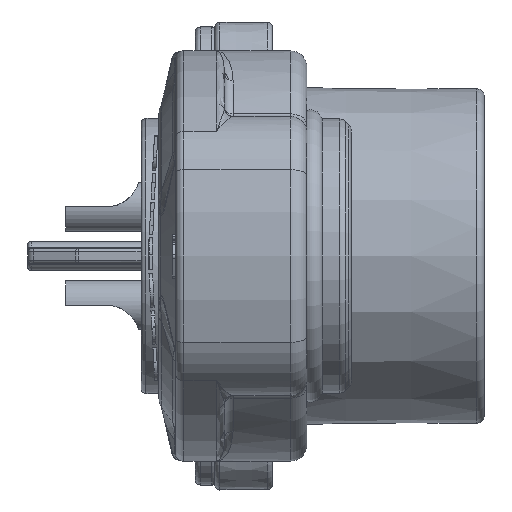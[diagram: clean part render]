
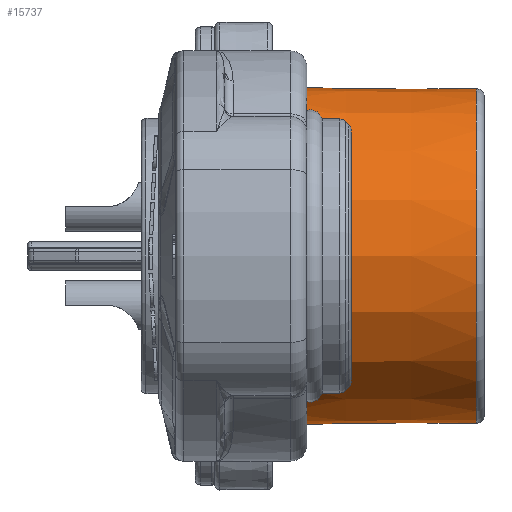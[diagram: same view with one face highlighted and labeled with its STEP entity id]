
A CAD part, front view. The second image highlights one B-rep face of the part: STEP entity #15737.
In plain terms, the highlighted conical face has half-angle 0.5 degrees and reference radius 10.2 mm.
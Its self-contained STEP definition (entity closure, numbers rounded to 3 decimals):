
#863 = VERTEX_POINT ( 'NONE', #16280 ) ;
#988 = DIRECTION ( 'NONE',  ( 0., 0., -1. ) ) ;
#2016 = CIRCLE ( 'NONE', #17693, 10.204 ) ;
#2128 = EDGE_LOOP ( 'NONE', ( #4218, #34619, #41093, #7070 ) ) ;
#2325 = EDGE_CURVE ( 'NONE', #863, #9062, #15677, .T. ) ;
#3129 = CARTESIAN_POINT ( 'NONE',  ( -8.135, 7.349, 7.175 ) ) ;
#3972 = CIRCLE ( 'NONE', #22438, 10.308 ) ;
#4218 = ORIENTED_EDGE ( 'NONE', *, *, #2325, .T. ) ;
#7070 = ORIENTED_EDGE ( 'NONE', *, *, #31493, .T. ) ;
#7623 = CONICAL_SURFACE ( 'NONE', #19943, 10.2, 0.009 ) ;
#7672 = CARTESIAN_POINT ( 'NONE',  ( -10.57, 7.36, -7.195 ) ) ;
#9062 = VERTEX_POINT ( 'NONE', #15787 ) ;
#9404 = DIRECTION ( 'NONE',  ( 1., 0., 0. ) ) ;
#9542 = CARTESIAN_POINT ( 'NONE',  ( -10.269, 7.358, 7.193 ) ) ;
#12674 = EDGE_CURVE ( 'NONE', #9062, #33868, #2016, .T. ) ;
#13581 = DIRECTION ( 'NONE',  ( -1., 0., 0. ) ) ;
#14080 = CARTESIAN_POINT ( 'NONE',  ( -12.404, 7.367, -7.21 ) ) ;
#15677 = B_SPLINE_CURVE_WITH_KNOTS ( 'NONE', 3,
 ( #14080, #7672, #39989, #27358, #24142, #23735, #27155 ),
 .UNSPECIFIED., .F., .F.,
 ( 4, 3, 4 ),
 ( 0., 0.006, 0.012 ),
 .UNSPECIFIED. ) ;
#15737 = ADVANCED_FACE ( 'NONE', ( #24273 ), #7623, .T. ) ;
#15787 = CARTESIAN_POINT ( 'NONE',  ( -0.496, 7.317, -7.113 ) ) ;
#16026 = CARTESIAN_POINT ( 'NONE',  ( -12.404, 0., 0. ) ) ;
#16280 = CARTESIAN_POINT ( 'NONE',  ( -12.404, 7.367, -7.21 ) ) ;
#17472 = CARTESIAN_POINT ( 'NONE',  ( -12.404, 7.367, 7.21 ) ) ;
#17693 = AXIS2_PLACEMENT_3D ( 'NONE', #39494, #13581, #988 ) ;
#19127 = EDGE_CURVE ( 'NONE', #33868, #35071, #41180, .T. ) ;
#19396 = CARTESIAN_POINT ( 'NONE',  ( -0.496, 7.317, 7.113 ) ) ;
#19943 = AXIS2_PLACEMENT_3D ( 'NONE', #20649, #37317, #33701 ) ;
#20649 = CARTESIAN_POINT ( 'NONE',  ( 0., 0., 0. ) ) ;
#22438 = AXIS2_PLACEMENT_3D ( 'NONE', #16026, #9404, #42328 ) ;
#22643 = CARTESIAN_POINT ( 'NONE',  ( -0.496, 7.317, 7.113 ) ) ;
#23735 = CARTESIAN_POINT ( 'NONE',  ( -2.631, 7.326, -7.13 ) ) ;
#24142 = CARTESIAN_POINT ( 'NONE',  ( -4.765, 7.335, -7.148 ) ) ;
#24273 = FACE_OUTER_BOUND ( 'NONE', #2128, .T. ) ;
#27155 = CARTESIAN_POINT ( 'NONE',  ( -0.496, 7.317, -7.113 ) ) ;
#27358 = CARTESIAN_POINT ( 'NONE',  ( -6.9, 7.344, -7.165 ) ) ;
#29010 = CARTESIAN_POINT ( 'NONE',  ( -4.165, 7.332, 7.143 ) ) ;
#29432 = CARTESIAN_POINT ( 'NONE',  ( -12.404, 7.367, 7.21 ) ) ;
#31493 = EDGE_CURVE ( 'NONE', #35071, #863, #3972, .T. ) ;
#32441 = CARTESIAN_POINT ( 'NONE',  ( -2.33, 7.324, 7.128 ) ) ;
#33701 = DIRECTION ( 'NONE',  ( 0., 0., -1. ) ) ;
#33868 = VERTEX_POINT ( 'NONE', #22643 ) ;
#34619 = ORIENTED_EDGE ( 'NONE', *, *, #12674, .T. ) ;
#35071 = VERTEX_POINT ( 'NONE', #17472 ) ;
#37317 = DIRECTION ( 'NONE',  ( -1., 0., 0. ) ) ;
#39273 = CARTESIAN_POINT ( 'NONE',  ( -6., 7.34, 7.158 ) ) ;
#39494 = CARTESIAN_POINT ( 'NONE',  ( -0.496, 0., 0. ) ) ;
#39989 = CARTESIAN_POINT ( 'NONE',  ( -8.735, 7.352, -7.18 ) ) ;
#41093 = ORIENTED_EDGE ( 'NONE', *, *, #19127, .T. ) ;
#41180 = B_SPLINE_CURVE_WITH_KNOTS ( 'NONE', 3,
 ( #19396, #32441, #29010, #39273, #3129, #9542, #29432 ),
 .UNSPECIFIED., .F., .F.,
 ( 4, 3, 4 ),
 ( 0., 0.006, 0.012 ),
 .UNSPECIFIED. ) ;
#42328 = DIRECTION ( 'NONE',  ( 0., 0., 1. ) ) ;
